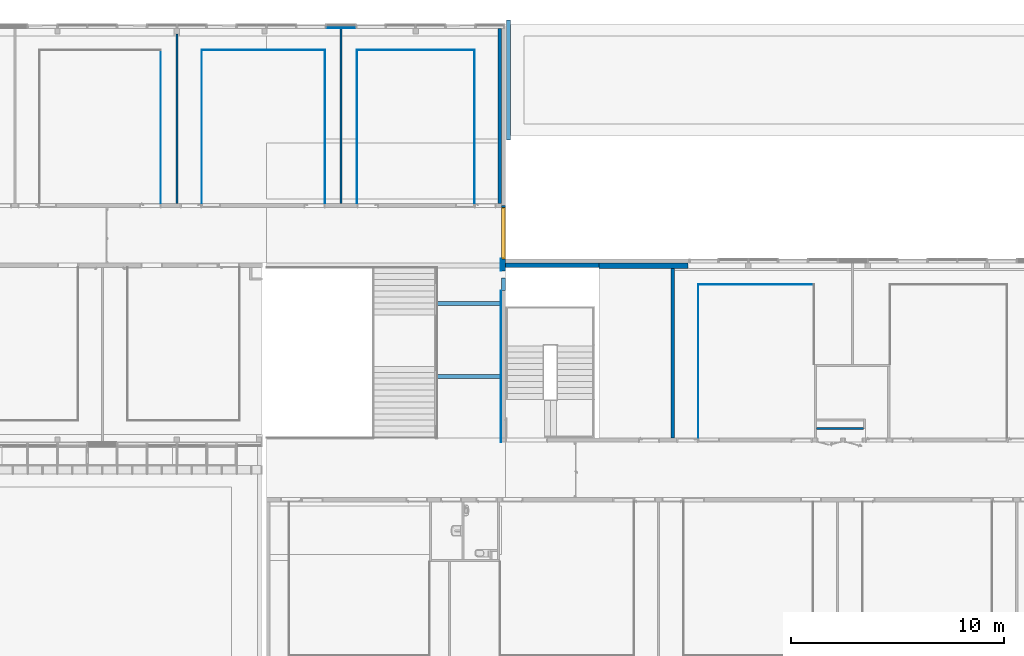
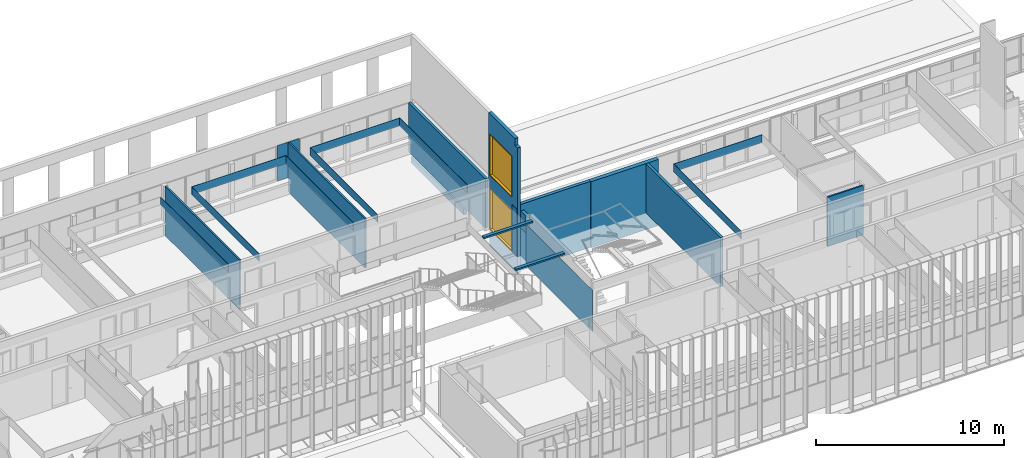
"""IFC2X3 building model written with IfcOpenShell, lengths in centimetres."""

from ifc_helpers import new_model, entity, si_unit, converted_unit, derived_unit, direction, frame, frame_2d, origin, place, context, subcontext, project, spatial, polyline, rectangle, extrude, clip, bounded_halfspace, faceted_brep, source, transform, mapped, material, material_list, layer, layer_set, layer_usage, type_object, type_shapes, element, fill, save


model = new_model("IFC2X3")

# Units and contexts
model_context = context("Model", 3, precision=0.001, world=origin(), true_north=direction((6.12303176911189e-17, 1.0)))
body_context = subcontext(model_context, "Body", "Model", "MODEL_VIEW")
ifc_project = project(units=[si_unit("LENGTHUNIT", "METRE", prefix="CENTI"), si_unit("AREAUNIT", "SQUARE_METRE"), si_unit("VOLUMEUNIT", "CUBIC_METRE"), converted_unit("PLANEANGLEUNIT", "DEGREE", entity("IfcRatioMeasure", 0.0174532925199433), si_unit("PLANEANGLEUNIT", "RADIAN"), dimensions=[0, 0, 0, 0, 0, 0, 0]), si_unit("MASSUNIT", "GRAM", prefix="KILO"), derived_unit("MASSDENSITYUNIT", [(si_unit("MASSUNIT", "GRAM", prefix="KILO"), 1), (si_unit("LENGTHUNIT", "METRE"), -3)]), si_unit("TIMEUNIT", "SECOND"), si_unit("FREQUENCYUNIT", "HERTZ"), si_unit("THERMODYNAMICTEMPERATUREUNIT", "DEGREE_CELSIUS"), derived_unit("THERMALTRANSMITTANCEUNIT", [(si_unit("MASSUNIT", "GRAM", prefix="KILO"), 1), (si_unit("THERMODYNAMICTEMPERATUREUNIT", "KELVIN"), -1), (si_unit("TIMEUNIT", "SECOND"), -3)]), derived_unit("VOLUMETRICFLOWRATEUNIT", [(si_unit("LENGTHUNIT", "METRE"), 3), (si_unit("TIMEUNIT", "SECOND"), -1)]), si_unit("ELECTRICCURRENTUNIT", "AMPERE"), si_unit("ELECTRICVOLTAGEUNIT", "VOLT"), si_unit("POWERUNIT", "WATT"), si_unit("FORCEUNIT", "NEWTON", prefix="KILO"), si_unit("ILLUMINANCEUNIT", "LUX"), si_unit("LUMINOUSFLUXUNIT", "LUMEN"), si_unit("LUMINOUSINTENSITYUNIT", "CANDELA"), derived_unit("USERDEFINED", [(si_unit("MASSUNIT", "GRAM", prefix="KILO"), -1), (si_unit("LENGTHUNIT", "METRE"), -2), (si_unit("TIMEUNIT", "SECOND"), 3), (si_unit("LUMINOUSFLUXUNIT", "LUMEN"), 1)]), derived_unit("LINEARVELOCITYUNIT", [(si_unit("LENGTHUNIT", "METRE"), 1), (si_unit("TIMEUNIT", "SECOND"), -1)]), si_unit("PRESSUREUNIT", "PASCAL"), derived_unit("USERDEFINED", [(si_unit("LENGTHUNIT", "METRE"), -2), (si_unit("MASSUNIT", "GRAM", prefix="KILO"), 1), (si_unit("TIMEUNIT", "SECOND"), -2)])], contexts=[model_context])

# Site, building, storey
site_placement = place(None, frame((-2781.94577612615, 7442.24238424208, 0.0)))
site = spatial("IfcSite", under=ifc_project, at=site_placement, Name="Default", CompositionType="ELEMENT")
building_placement = place(site_placement, origin())
building = spatial("IfcBuilding", under=site, at=building_placement, CompositionType="ELEMENT")
storey_1_placement = place(building_placement, frame((0.0, 0.0, 422.0)))
storey_1 = spatial("IfcBuildingStorey", under=building, at=storey_1_placement, Name="Toiture - Cuisine", CompositionType="ELEMENT", Elevation=421.999999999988)

# Walls
ifc_material_1 = material(Name="01 - Maçonnerie")
ifc_layer_1 = layer(ifc_material_1, 25.0)
ifc_layer_set_1 = layer_set([ifc_layer_1], Name="Mur de base:04 - Structure - béton - 25cm")
ifc_layer_usage_1 = layer_usage(ifc_layer_set_1, "AXIS2", "NEGATIVE", 12.5)
wall_type_1 = type_object("IfcWallType", Name="Mur de base:04 - Structure - béton - 25cm", PredefinedType="STANDARD", material=ifc_layer_set_1)
wall_1_placement = place(building_placement, frame((-2788.29988284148, -1102.49999990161, 313.0), z_axis=(0.0, 0.0, 1.0), x_axis=(-1.0, 0.0, 0.0)))
element("IfcWallStandardCase", 1, at=wall_1_placement, inside=storey_1, type_object=wall_type_1, material=ifc_layer_usage_1, Name="Mur de base:04 - Structure - béton - 25cm", ObjectType="Mur de base:04 - Structure - béton - 25cm", context=body_context, shape_type="Clipping", body=[
    clip(extrude(rectangle(XDim=416.000000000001, YDim=25.0, at=frame_2d((213.0, 3.5527136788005e-14), x_axis=(-1.0, 0.0))), origin(), (0.0, 0.0, 1.0), 430.0), bounded_halfspace(frame((421.0, 7.49999999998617, 430.0), z_axis=(0.0, 0.0, -1.0), x_axis=(0.0, -1.0, 0.0)), True, frame((421.0, 7.49999999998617, 430.0)), polyline([(0.0, 0.0), (0.0, 5.0), (-338.0, 5.0), (-354.0, 5.0), (-421.0, 5.0), (-421.0, 0.0), (0.0, 0.0)]))),
])
ifc_material_2 = material(Name="00 - Isolant")
ifc_layer_2 = layer(ifc_material_2, 14.0)
ifc_material_3 = material(Name="01 - Enduit/Plâtre")
ifc_layer_3 = layer(ifc_material_3, 1.3)
ifc_layer_set_2 = layer_set([ifc_layer_2, ifc_layer_3], Name="Mur de base:04 - Parement -  isolant 14 cm + BA13")
ifc_layer_usage_2 = layer_usage(ifc_layer_set_2, "AXIS2", "NEGATIVE", 7.65)
wall_type_2 = type_object("IfcWallType", Name="Mur de base:04 - Parement -  isolant 14 cm + BA13", PredefinedType="STANDARD", material=ifc_layer_set_2)
wall_2_placement = place(building_placement, frame((-3675.64987968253, 10.0, 422.0), z_axis=(0.0, 0.0, 1.0), x_axis=(0.0, -1.0, 0.0)))
element("IfcWallStandardCase", 2, at=wall_2_placement, inside=storey_1, type_object=wall_type_2, material=ifc_layer_usage_2, Name="Mur de base:04 - Parement -  isolant 14 cm + BA13", ObjectType="Mur de base:04 - Parement -  isolant 14 cm + BA13", context=body_context, shape_type="SweptSolid", body=[
    extrude(rectangle(XDim=820.048500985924, YDim=15.3, at=frame_2d((410.024250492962, -2.66453525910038e-15), x_axis=(-1.0, 0.0))), origin(), (0.0, 0.0, 1.0), 321.0),
])

# Wall, openings, window
ifc_layer_4 = layer(ifc_material_1, 20.0)
ifc_layer_set_3 = layer_set([ifc_layer_4], Name="Mur de base:04 - Structure - béton - 20cm")
ifc_layer_usage_3 = layer_usage(ifc_layer_set_3, "AXIS2", "NEGATIVE", 10.0)
wall_type_3 = type_object("IfcWallType", Name="Mur de base:04 - Structure - béton - 20cm", PredefinedType="STANDARD", material=ifc_layer_set_3)
wall_3_placement = place(building_placement, frame((-3657.99987968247, -1126.0067703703, 313.0), z_axis=(0.0, 0.0, 1.0), x_axis=(0.0, 1.0, 0.0)))
wall_3 = element("IfcWallStandardCase", 3, at=wall_3_placement, inside=storey_1, type_object=wall_type_3, material=ifc_layer_usage_3, Name="Mur de base:04 - Structure - béton - 20cm", ObjectType="Mur de base:04 - Structure - béton - 20cm", context=body_context, shape_type="Clipping", body=[
    clip(extrude(rectangle(XDim=305.958269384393, YDim=19.9999999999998, at=frame_2d((152.979134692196, 0.0), x_axis=(-1.0, 0.0))), origin(), (0.0, 0.0, 1.0), 863.000000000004), bounded_halfspace(frame((295.958269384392, -10.0, 109.0), z_axis=(-1.0, 0.0, 0.0), x_axis=(0.0, -1.0, 0.0)), True, frame((295.958269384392, -10.0, 109.0), z_axis=(-1.0, 0.0, 0.0), x_axis=(0.0, -1.0, 0.0)), polyline([(0.0, 0.0), (-20.0, 0.0), (-20.0, -109.0), (0.0, -109.0), (0.0, 0.0)]))),
])
opening_1_placement = place(wall_3_placement, origin())
element("IfcOpeningElement", 4, at=opening_1_placement, cuts=wall_3, Name="Mur de base:04 - Structure - béton - 20cm:4570", ObjectType="Opening", context=body_context, shape_type="SweptSolid", body=[
    extrude(rectangle(XDim=45.9999999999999, YDim=26.0067704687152, at=frame_2d((-1.08357767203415e-13, 0.0), x_axis=(0.0, 1.0))), frame((13.0033852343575, 10.0, 840.0), z_axis=(0.0, -1.0, 0.0), x_axis=(-1.0, 0.0, 0.0)), (0.0, 0.0, 1.0), 20.0),
])
opening_2_placement = place(wall_3_placement, frame((56.0067704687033, -10.0, 109.0)))
opening_2 = element("IfcOpeningElement", 5, at=opening_2_placement, cuts=wall_3, Name="châssis intérieur vitré:R+1 - Pignon -  châssis intérieur vitré (2,70m):1", ObjectType="Opening", context=body_context, shape_type="SweptSolid", body=[
    extrude(rectangle(XDim=270.0, YDim=239.951498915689, at=frame_2d((135.0, 119.975749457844), x_axis=(1.0, 0.0))), frame((0.0, 0.0, 0.0), z_axis=(0.0, 1.0, 0.0), x_axis=(0.0, 0.0, 1.0)), (0.0, 0.0, 1.0), 20.0),
])
opening_3_placement = place(wall_3_placement, frame((56.0067704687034, -10.0, 461.0)))
opening_3 = element("IfcOpeningElement", 6, at=opening_3_placement, cuts=wall_3, Name="châssis intérieur vitré:R+1 - Pignon -  châssis intérieur vitré (2,70m):1", ObjectType="Opening", context=body_context, shape_type="SweptSolid", body=[
    extrude(rectangle(XDim=270.0, YDim=239.951498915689, at=frame_2d((135.0, 119.975749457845), x_axis=(1.0, 0.0))), frame((0.0, 0.0, 0.0), z_axis=(0.0, 1.0, 0.0), x_axis=(0.0, 0.0, 1.0)), (0.0, 0.0, 1.0), 20.0),
])
ifc_material_4 = material(Name="Verre")
ifc_material_5 = material(Name="huisserie bois")
ifc_material_list_1 = material_list([ifc_material_4, ifc_material_5])
ifc_material_list_2 = material_list([ifc_material_4, ifc_material_5])
window_style = type_object("IfcWindowStyle", Name="R+1 - Pignon -  châssis intérieur vitré (2,70m)", ConstructionType="NOTDEFINED", OperationType="NOTDEFINED", ParameterTakesPrecedence=False, Sizeable=False, material=ifc_material_list_2)
shared_shape = source(origin(), body_context, "Body", "Brep", [
    faceted_brep([(236.951498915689, 5.0, 267.0), (236.951498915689, 5.0, 3.0), (3.0, 5.0, 3.0), (3.0, 5.0, 267.0), (236.951498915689, 2.0, 267.0), (236.951498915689, 2.0, 3.0), (3.0, 2.0, 3.0), (3.0, 2.0, 267.0)], [[[0, 1, 2, 3]], [[1, 0, 4, 5]], [[2, 1, 5, 6]], [[3, 2, 6, 7]], [[4, 7, 6, 5]], [[0, 3, 7, 4]]]),
    faceted_brep([(236.951498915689, 2.0, 267.0), (236.951498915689, 0.0, 267.0), (236.951498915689, 0.0, 3.0), (236.951498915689, 2.0, 3.0), (234.951498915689, 0.0, 5.0), (5.0, 0.0, 5.0), (5.0, 0.0, 265.0), (234.951498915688, 0.0, 265.0), (3.0, 0.0, 267.0), (3.0, 0.0, 3.0), (3.0, 2.0, 3.0), (3.0, 2.0, 267.0), (234.951498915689, 2.0, 265.0), (5.0, 2.0, 265.0), (5.0, 2.0, 5.0), (234.951498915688, 2.0, 5.0)], [[[0, 1, 2, 3]], [[4, 5, 6, 7], [1, 8, 9, 2]], [[3, 2, 9, 10]], [[3, 10, 11, 0], [12, 13, 14, 15]], [[7, 12, 15, 4]], [[4, 15, 14, 5]], [[10, 9, 8, 11]], [[5, 14, 13, 6]], [[11, 8, 1, 0]], [[6, 13, 12, 7]]], outer=[[True], [False, True], [True], [True, False], [True], [True], [True], [True], [True], [True]]),
    faceted_brep([(234.951498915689, 5.0, 265.0), (234.951498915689, 20.0, 265.0), (234.951498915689, 20.0, 5.0), (234.951498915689, 5.0, 5.0), (239.951498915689, 20.0, 0.0), (0.0, 20.0, 0.0), (0.0, 20.0, 270.0), (239.951498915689, 20.0, 270.0), (5.0, 20.0, 265.0), (5.0, 20.0, 5.0), (5.0, 5.0, 5.0), (5.0, 5.0, 265.0), (236.951498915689, 5.0, 267.0), (3.0, 5.0, 267.0), (3.0, 5.0, 3.0), (236.951498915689, 5.0, 3.0), (236.951498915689, 0.0, 267.0), (236.951498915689, 0.0, 3.0), (3.0, 0.0, 3.0), (3.0, 0.0, 267.0), (239.951498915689, 0.0, 270.0), (0.0, 0.0, 270.0), (0.0, 0.0, 0.0), (239.951498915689, 0.0, 0.0)], [[[0, 1, 2, 3]], [[4, 5, 6, 7], [1, 8, 9, 2]], [[3, 2, 9, 10]], [[3, 10, 11, 0], [12, 13, 14, 15]], [[16, 12, 15, 17]], [[17, 15, 14, 18]], [[17, 18, 19, 16], [20, 21, 22, 23]], [[7, 20, 23, 4]], [[4, 23, 22, 5]], [[10, 9, 8, 11]], [[18, 14, 13, 19]], [[5, 22, 21, 6]], [[11, 8, 1, 0]], [[19, 13, 12, 16]], [[6, 21, 20, 7]]], outer=[[True], [True, False], [True], [False, True], [True], [True], [False, True], [True], [True], [True], [True], [True], [True], [True], [True]]),
])
type_shapes(window_style, [shared_shape])
window_1_placement = place(opening_2_placement, frame((-9.84036887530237e-08, 0.0, 0.0)))
window_1 = element("IfcWindow", 7, at=window_1_placement, inside=storey_1, type_object=window_style, material=ifc_material_list_1, Name="châssis intérieur vitré:R+1 - Pignon -  châssis intérieur vitré (2,70m)", ObjectType="châssis intérieur vitré:R+1 - Pignon -  châssis intérieur vitré (2,70m)", OverallHeight=270.0, OverallWidth=239.951498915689, context=body_context, shape_type="MappedRepresentation", body=[
    mapped(shared_shape, transform((0.0, 0.0, 0.0), scale=1.0)),
])
fill(opening_2, window_1)

# Storey
storey_2_placement = place(building_placement, frame((0.0, 0.0, 774.0)))
storey_2 = spatial("IfcBuildingStorey", under=building, at=storey_2_placement, Name="TR - N02 - ARCH", CompositionType="ELEMENT", Elevation=774.0)

# Window
ifc_material_list_3 = material_list([ifc_material_4, ifc_material_5])
window_2_placement = place(opening_3_placement, frame((-9.84039161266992e-08, 0.0, 0.0)))
window_2 = element("IfcWindow", 8, at=window_2_placement, inside=storey_2, type_object=window_style, material=ifc_material_list_3, Name="châssis intérieur vitré:R+1 - Pignon -  châssis intérieur vitré (2,70m)", ObjectType="châssis intérieur vitré:R+1 - Pignon -  châssis intérieur vitré (2,70m)", OverallHeight=270.0, OverallWidth=239.951498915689, context=body_context, shape_type="MappedRepresentation", body=[
    mapped(shared_shape, transform((0.0, 0.0, 0.0), scale=1.0)),
])

fill(opening_3, window_2)

# Walls
ifc_layer_usage_4 = layer_usage(ifc_layer_set_3, "AXIS2", "NEGATIVE", 10.0)
wall_4_placement = place(building_placement, frame((-3657.99987968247, -1219.1067703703, 632.0), z_axis=(0.0, 0.0, 1.0), x_axis=(0.0, 1.0, 0.0)))
element("IfcWallStandardCase", 9, at=wall_4_placement, inside=storey_1, type_object=wall_type_3, material=ifc_layer_usage_4, Name="Mur de base:04 - Structure - béton - 20cm", ObjectType="Mur de base:04 - Structure - béton - 20cm", context=body_context, shape_type="SweptSolid", body=[
    extrude(rectangle(XDim=58.1345071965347, YDim=19.9999999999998, at=frame_2d((29.0672535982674, 0.0), x_axis=(-1.0, 0.0))), origin(), (0.0, 0.0, 1.0), 111.0),
])
ifc_layer_usage_5 = layer_usage(ifc_layer_set_3, "AXIS2", "NEGATIVE", 10.0)
wall_5_placement = place(building_placement, frame((-3209.29988284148, -1100.0, 313.0), z_axis=(0.0, 0.0, 1.0), x_axis=(-1.0, 0.0, 0.0)))
element("IfcWallStandardCase", 10, at=wall_5_placement, inside=storey_1, type_object=wall_type_3, material=ifc_layer_usage_5, Name="Mur de base:04 - Structure - béton - 20cm", ObjectType="Mur de base:04 - Structure - béton - 20cm", context=body_context, shape_type="SweptSolid", body=[
    extrude(rectangle(XDim=438.699996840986, YDim=20.0000000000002, at=frame_2d((219.349998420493, -5.24025267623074e-14), x_axis=(-1.0, 0.0))), origin(), (0.0, 0.0, 1.0), 430.0),
])
ifc_layer_usage_6 = layer_usage(ifc_layer_set_3, "AXIS2", "NEGATIVE", 10.0)
wall_6_placement = place(building_placement, frame((-3633.99987968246, -512.548500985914, 313.0), z_axis=(0.0, 0.0, 1.0), x_axis=(0.0, 1.0, 0.0)))
element("IfcWallStandardCase", 11, at=wall_6_placement, inside=storey_1, type_object=wall_type_3, material=ifc_layer_usage_6, Name="Mur de base:04 - Structure - béton - 20cm", ObjectType="Mur de base:04 - Structure - béton - 20cm", context=body_context, shape_type="SweptSolid", body=[
    extrude(rectangle(XDim=562.548500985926, YDim=19.9999999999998, at=frame_2d((281.274250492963, 2.48689957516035e-14), x_axis=(-1.0, 0.0))), origin(), (0.0, 0.0, 1.0), 40.0000000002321),
])
ifc_layer_5 = layer(ifc_material_3, 1.3)
ifc_layer_6 = layer(ifc_material_2, 7.4)
ifc_layer_7 = layer(ifc_material_3, 1.3)
ifc_layer_set_4 = layer_set([ifc_layer_5, ifc_layer_6, ifc_layer_7], Name="Mur de base:06 - cloisons - Ba13 10cm")
ifc_layer_usage_7 = layer_usage(ifc_layer_set_4, "AXIS2", "NEGATIVE", 5.0)
wall_type_4 = type_object("IfcWallType", Name="Mur de base:06 - cloisons - Ba13 10cm", PredefinedType="STANDARD", material=ifc_layer_set_4)
wall_7_placement = place(building_placement, frame((-4418.79987968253, 10.0, 422.0), z_axis=(0.0, 0.0, 1.0), x_axis=(0.0, -1.0, 0.0)))
element("IfcWallStandardCase", 12, at=wall_7_placement, inside=storey_1, type_object=wall_type_4, material=ifc_layer_usage_7, Name="Mur de base:06 - cloisons - Ba13 10cm", ObjectType="Mur de base:06 - cloisons - Ba13 10cm", context=body_context, shape_type="Clipping", body=[
    clip(extrude(rectangle(XDim=820.048500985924, YDim=9.99999999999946, at=frame_2d((410.024250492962, -1.02140518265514e-14), x_axis=(-1.0, 0.0))), origin(), (0.0, 0.0, 1.0), 321.0), bounded_halfspace(frame((20.0, -5.0, 321.0), z_axis=(0.0, 0.0, -1.0), x_axis=(-1.0, 0.0, 0.0)), True, frame((20.0, -5.0, 321.0)), polyline([(0.0, 0.0), (800.048500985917, 0.0), (800.048500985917, 10.0), (0.0, 10.0), (0.0, 0.0)]))),
])
ifc_layer_usage_8 = layer_usage(ifc_layer_set_4, "AXIS2", "NEGATIVE", 5.0)
wall_8_placement = place(building_placement, frame((-5189.49987760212, -15.0, 422.0), z_axis=(0.0, 0.0, 1.0), x_axis=(0.0, -1.0, 0.0)))
element("IfcWallStandardCase", 13, at=wall_8_placement, inside=storey_1, type_object=wall_type_4, material=ifc_layer_usage_8, Name="Mur de base:06 - cloisons - Ba13 10cm", ObjectType="Mur de base:06 - cloisons - Ba13 10cm", context=body_context, shape_type="Clipping", body=[
    clip(extrude(rectangle(XDim=795.048500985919, YDim=9.99999999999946, at=frame_2d((397.52425049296, -3.59712259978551e-14), x_axis=(-1.0, 0.0))), origin(), (0.0, 0.0, 1.0), 321.0), bounded_halfspace(frame((0.0, -5.0, 321.0), z_axis=(0.0, 0.0, -1.0), x_axis=(-1.0, 0.0, 0.0)), True, frame((0.0, -5.0, 321.0)), polyline([(0.0, 0.0), (795.048500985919, 0.0), (795.048500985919, 10.0), (0.0, 10.0), (0.0, 0.0)]))),
])
ifc_layer_usage_9 = layer_usage(ifc_layer_set_4, "AXIS2", "NEGATIVE", 5.0)
wall_9_placement = place(building_placement, frame((-1969.49988284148, -1865.24940451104, 422.0), z_axis=(0.0, 0.0, 1.0), x_axis=(-1.0, 0.0, 0.0)))
element("IfcWallStandardCase", 14, at=wall_9_placement, inside=storey_1, type_object=wall_type_4, material=ifc_layer_usage_9, Name="Mur de base:06 - cloisons - Ba13 10cm", ObjectType="Mur de base:06 - cloisons - Ba13 10cm", context=body_context, shape_type="Clipping", body=[
    clip(extrude(rectangle(XDim=220.0, YDim=9.99999999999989, at=frame_2d((110.0, -7.105427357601e-15), x_axis=(-1.0, 0.0))), origin(), (0.0, 0.0, 1.0), 321.0), bounded_halfspace(frame((0.0, -5.0, 321.0), z_axis=(0.0, 0.0, -1.0), x_axis=(0.0, -1.0, 0.0)), True, frame((0.0, -5.0, 321.0)), polyline([(0.0, 0.0), (220.0, 0.0), (220.0, 10.0), (100.0, 10.0), (90.0, 10.0), (0.0, 10.0), (0.0, 9.82962913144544), (0.0, 4.82962913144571), (0.0, 0.0)]))),
])
ifc_layer_8 = layer(ifc_material_3, 1.3)
ifc_material_6 = material(Name="00 - VIDE D'AIR")
ifc_layer_9 = layer(ifc_material_6, 0.7)
ifc_layer_set_5 = layer_set([ifc_layer_8, ifc_layer_9], Name="Mur de base:06 - habillage Ba13 collée 2cm")
ifc_layer_usage_10 = layer_usage(ifc_layer_set_5, "AXIS2", "POSITIVE", -1.0)
wall_type_5 = type_object("IfcWallType", Name="Mur de base:06 - habillage Ba13 collée 2cm", PredefinedType="STANDARD", material=ifc_layer_set_5)
wall_10_placement = place(building_placement, frame((-4493.79987968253, -91.0, 692.0), z_axis=(0.0, 0.0, 1.0), x_axis=(-1.0, 0.0, 0.0)))
element("IfcWallStandardCase", 15, at=wall_10_placement, inside=storey_1, type_object=wall_type_5, material=ifc_layer_usage_10, Name="Mur de base:06 - habillage Ba13 collée 2cm", ObjectType="Mur de base:06 - habillage Ba13 collée 2cm", context=body_context, shape_type="Clipping", body=[
    clip(extrude(rectangle(XDim=580.000000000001, YDim=2.00000000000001, at=frame_2d((290.0, 3.10862446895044e-15), x_axis=(-1.0, 0.0))), origin(), (0.0, 0.0, 1.0), 50.9999999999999), bounded_halfspace(frame((0.0, -1.0, 51.0), z_axis=(0.0, 0.0, -1.0), x_axis=(0.0, -1.0, 0.0)), True, frame((0.0, -1.0, 51.0)), polyline([(0.0, 0.0), (580.0, 0.0), (580.0, 2.0), (578.0, 2.0), (2.0, 2.0), (0.0, 2.0), (0.0, 0.0)]))),
])
ifc_layer_usage_11 = layer_usage(ifc_layer_set_5, "AXIS2", "POSITIVE", -1.0)
wall_11_placement = place(building_placement, frame((-3793.29987968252, -91.0, 692.0), z_axis=(0.0, 0.0, 1.0), x_axis=(-1.0, 0.0, 0.0)))
element("IfcWallStandardCase", 16, at=wall_11_placement, inside=storey_1, type_object=wall_type_5, material=ifc_layer_usage_11, Name="Mur de base:06 - habillage Ba13 collée 2cm", ObjectType="Mur de base:06 - habillage Ba13 collée 2cm", context=body_context, shape_type="Clipping", body=[
    clip(extrude(rectangle(XDim=552.500000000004, YDim=2.00000000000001, at=frame_2d((276.250000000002, 6.10622663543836e-15), x_axis=(-1.0, 0.0))), origin(), (0.0, 0.0, 1.0), 50.9999999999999), bounded_halfspace(frame((0.0, -1.0, 51.0), z_axis=(0.0, 0.0, -1.0), x_axis=(0.0, -1.0, 0.0)), True, frame((0.0, -1.0, 51.0)), polyline([(0.0, 0.0), (552.500000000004, 0.0), (552.500000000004, 2.0), (550.500000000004, 2.0), (2.0, 2.0), (0.0, 2.0), (0.0, 0.0)]))),
])
ifc_layer_usage_12 = layer_usage(ifc_layer_set_5, "AXIS2", "POSITIVE", -1.0)
wall_12_placement = place(building_placement, frame((-3794.29987968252, -810.048500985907, 692.0), z_axis=(0.0, 0.0, 1.0), x_axis=(0.0, 1.0, 0.0)))
element("IfcWallStandardCase", 17, at=wall_12_placement, inside=storey_1, type_object=wall_type_5, material=ifc_layer_usage_12, Name="Mur de base:06 - habillage Ba13 collée 2cm", ObjectType="Mur de base:06 - habillage Ba13 collée 2cm", context=body_context, shape_type="Clipping", body=[
    clip(extrude(rectangle(XDim=718.048500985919, YDim=2.00000000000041, at=frame_2d((359.02425049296, -8.88178419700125e-15), x_axis=(-1.0, 0.0))), origin(), (0.0, 0.0, 1.0), 50.9999999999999), bounded_halfspace(frame((0.0, -1.0, 51.0), z_axis=(0.0, 0.0, -1.0), x_axis=(1.0, 0.0, 0.0)), True, frame((0.0, -1.0, 51.0)), polyline([(0.0, 0.0), (718.048500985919, 0.0), (718.048500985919, 2.0), (0.0, 2.0), (0.0, 0.0)]))),
])
ifc_layer_usage_13 = layer_usage(ifc_layer_set_5, "AXIS2", "POSITIVE", -1.0)
wall_13_placement = place(building_placement, frame((-4344.79987968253, -92.0, 692.0), z_axis=(0.0, 0.0, 1.0), x_axis=(0.0, -1.0, 0.0)))
element("IfcWallStandardCase", 18, at=wall_13_placement, inside=storey_1, type_object=wall_type_5, material=ifc_layer_usage_13, Name="Mur de base:06 - habillage Ba13 collée 2cm", ObjectType="Mur de base:06 - habillage Ba13 collée 2cm", context=body_context, shape_type="Clipping", body=[
    clip(extrude(rectangle(XDim=718.048500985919, YDim=1.99999999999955, at=frame_2d((359.02425049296, -5.93969318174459e-15), x_axis=(-1.0, 0.0))), origin(), (0.0, 0.0, 1.0), 50.9999999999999), bounded_halfspace(frame((0.0, -1.0, 51.0), z_axis=(0.0, 0.0, -1.0), x_axis=(-1.0, 0.0, 0.0)), True, frame((0.0, -1.0, 51.0)), polyline([(0.0, 0.0), (718.048500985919, 0.0), (718.048500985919, 2.0), (0.0, 2.0), (0.0, 0.0)]))),
])
ifc_layer_usage_14 = layer_usage(ifc_layer_set_5, "AXIS2", "POSITIVE", -1.0)
wall_14_placement = place(building_placement, frame((-4494.79987968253, -810.048500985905, 692.0), z_axis=(0.0, 0.0, 1.0), x_axis=(0.0, 1.0, 0.0)))
element("IfcWallStandardCase", 19, at=wall_14_placement, inside=storey_1, type_object=wall_type_5, material=ifc_layer_usage_14, Name="Mur de base:06 - habillage Ba13 collée 2cm", ObjectType="Mur de base:06 - habillage Ba13 collée 2cm", context=body_context, shape_type="Clipping", body=[
    clip(extrude(rectangle(XDim=718.048500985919, YDim=1.99999999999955, at=frame_2d((359.02425049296, 2.07722727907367e-13), x_axis=(-1.0, 0.0))), origin(), (0.0, 0.0, 1.0), 50.9999999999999), bounded_halfspace(frame((0.0, -1.0, 51.0), z_axis=(0.0, 0.0, -1.0), x_axis=(1.0, 0.0, 0.0)), True, frame((0.0, -1.0, 51.0)), polyline([(0.0, 0.0), (718.048500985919, 0.0), (718.048500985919, 2.0), (0.0, 2.0), (0.0, 0.0)]))),
])
ifc_layer_usage_15 = layer_usage(ifc_layer_set_5, "AXIS2", "POSITIVE", -1.0)
wall_15_placement = place(building_placement, frame((-5072.79987968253, -92.0, 692.0), z_axis=(0.0, 0.0, 1.0), x_axis=(0.0, -1.0, 0.0)))
element("IfcWallStandardCase", 20, at=wall_15_placement, inside=storey_1, type_object=wall_type_5, material=ifc_layer_usage_15, Name="Mur de base:06 - habillage Ba13 collée 2cm", ObjectType="Mur de base:06 - habillage Ba13 collée 2cm", context=body_context, shape_type="Clipping", body=[
    clip(extrude(rectangle(XDim=718.048500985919, YDim=1.99999999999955, at=frame_2d((359.02425049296, -5.93969318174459e-15), x_axis=(-1.0, 0.0))), origin(), (0.0, 0.0, 1.0), 50.9999999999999), bounded_halfspace(frame((0.0, -1.0, 51.0), z_axis=(0.0, 0.0, -1.0), x_axis=(-1.0, 0.0, 0.0)), True, frame((0.0, -1.0, 51.0)), polyline([(0.0, 0.0), (718.048500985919, 0.0), (718.048500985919, 2.0), (0.0, 2.0), (0.0, 0.0)]))),
])
ifc_layer_usage_16 = layer_usage(ifc_layer_set_5, "AXIS2", "POSITIVE", -1.0)
wall_16_placement = place(building_placement, frame((-5264.78697672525, -810.048500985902, 692.0), z_axis=(0.0, 0.0, 1.0), x_axis=(0.0, 1.0, 0.0)))
element("IfcWallStandardCase", 21, at=wall_16_placement, inside=storey_1, type_object=wall_type_5, material=ifc_layer_usage_16, Name="Mur de base:06 - habillage Ba13 collée 2cm", ObjectType="Mur de base:06 - habillage Ba13 collée 2cm", context=body_context, shape_type="Clipping", body=[
    clip(extrude(rectangle(XDim=718.048500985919, YDim=1.99999999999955, at=frame_2d((359.02425049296, 2.07722727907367e-13), x_axis=(-1.0, 0.0))), origin(), (0.0, 0.0, 1.0), 50.9999999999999), bounded_halfspace(frame((0.0, -1.0, 51.0), z_axis=(0.0, 0.0, -1.0), x_axis=(1.0, 0.0, 0.0)), True, frame((0.0, -1.0, 51.0)), polyline([(0.0, 0.0), (718.048500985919, 0.0), (718.048500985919, 2.0), (0.0, 2.0), (0.0, 0.0)]))),
])
ifc_layer_usage_17 = layer_usage(ifc_layer_set_5, "AXIS2", "NEGATIVE", 1.0)
wall_17_placement = place(building_placement, frame((-2745.29988284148, -1191.0, 692.0)))
element("IfcWallStandardCase", 22, at=wall_17_placement, inside=storey_1, type_object=wall_type_5, material=ifc_layer_usage_17, Name="Mur de base:06 - habillage Ba13 collée 2cm", ObjectType="Mur de base:06 - habillage Ba13 collée 2cm", context=body_context, shape_type="Clipping", body=[
    clip(extrude(rectangle(XDim=543.8, YDim=1.99999999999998, at=frame_2d((271.9, 9.26481114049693e-14), x_axis=(-1.0, 0.0))), origin(), (0.0, 0.0, 1.0), 50.9999999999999), bounded_halfspace(frame((0.0, -1.0, 51.0), z_axis=(0.0, 0.0, -1.0), x_axis=(0.0, 1.0, 0.0)), True, frame((0.0, -1.0, 51.0)), polyline([(0.0, 0.0), (2.0, 0.0), (543.8, 0.0), (543.8, 2.0), (0.0, 2.0), (0.0, 0.0)]))),
])
ifc_layer_usage_18 = layer_usage(ifc_layer_set_5, "AXIS2", "NEGATIVE", 1.0)
wall_18_placement = place(building_placement, frame((-2744.29988284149, -1910.07903364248, 692.0), z_axis=(0.0, 0.0, 1.0), x_axis=(0.0, 1.0, 0.0)))
element("IfcWallStandardCase", 23, at=wall_18_placement, inside=storey_1, type_object=wall_type_5, material=ifc_layer_usage_18, Name="Mur de base:06 - habillage Ba13 collée 2cm", ObjectType="Mur de base:06 - habillage Ba13 collée 2cm", context=body_context, shape_type="Clipping", body=[
    clip(extrude(rectangle(XDim=718.079033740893, YDim=2.00000000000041, at=frame_2d((359.039516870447, -3.47499806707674e-14), x_axis=(-1.0, 0.0))), origin(), (0.0, 0.0, 1.0), 50.9999999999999), bounded_halfspace(frame((0.0, -1.0, 51.0), z_axis=(0.0, 0.0, -1.0), x_axis=(1.0, 0.0, 0.0)), True, frame((0.0, -1.0, 51.0)), polyline([(0.0, 0.0), (718.079033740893, 0.0), (718.079033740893, 2.0), (0.0, 2.0), (0.0, 0.0)]))),
])
ifc_material_7 = material(Name="Pin")
ifc_layer_10 = layer(ifc_material_7, 2.0)
ifc_layer_set_6 = layer_set([ifc_layer_10], Name="Mur de base:06 - habillage bois collée 2cm")
ifc_layer_usage_19 = layer_usage(ifc_layer_set_6, "AXIS2", "NEGATIVE", 1.0)
wall_type_6 = type_object("IfcWallType", Name="Mur de base:06 - habillage bois collée 2cm", PredefinedType="STANDARD", material=ifc_layer_set_6)
wall_19_placement = place(building_placement, frame((-3668.99987968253, -1930.07903364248, 422.0), z_axis=(0.0, 0.0, 1.0), x_axis=(0.0, 1.0, 0.0)))
element("IfcWallStandardCase", 24, at=wall_19_placement, inside=storey_1, type_object=wall_type_6, material=ifc_layer_usage_19, Name="Mur de base:06 - habillage bois collée 2cm", ObjectType="Mur de base:06 - habillage bois collée 2cm", context=body_context, shape_type="SweptSolid", body=[
    extrude(rectangle(XDim=710.97226327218, YDim=2.00000000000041, at=frame_2d((355.48613163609, 7.29416527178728e-14), x_axis=(-1.0, 0.0))), origin(), (0.0, 0.0, 1.0), 270.0),
])
ifc_layer_usage_20 = layer_usage(ifc_layer_set_6, "AXIS2", "NEGATIVE", 1.0)
wall_20_placement = place(building_placement, frame((-3668.99987968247, -1070.0, 422.0), z_axis=(0.0, 0.0, 1.0), x_axis=(0.0, -1.0, 0.0)))
element("IfcWallStandardCase", 25, at=wall_20_placement, inside=storey_1, type_object=wall_type_6, material=ifc_layer_usage_20, Name="Mur de base:06 - habillage bois collée 2cm", ObjectType="Mur de base:06 - habillage bois collée 2cm", context=body_context, shape_type="SweptSolid", body=[
    extrude(rectangle(XDim=55.9999999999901, YDim=2.00000000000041, at=frame_2d((27.999999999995, 0.0), x_axis=(-1.0, 0.0))), origin(), (0.0, 0.0, 1.0), 306.0),
])
ifc_layer_11 = layer(ifc_material_3, 1.3)
ifc_layer_12 = layer(ifc_material_2, 13.4)
ifc_layer_13 = layer(ifc_material_3, 1.3)
ifc_layer_set_7 = layer_set([ifc_layer_11, ifc_layer_12, ifc_layer_13], Name="Mur de base:06 - cloisons - Ba13 16cm")
ifc_layer_usage_21 = layer_usage(ifc_layer_set_7, "AXIS2", "NEGATIVE", 8.0)
wall_type_7 = type_object("IfcWallType", Name="Mur de base:06 - cloisons - Ba13 16cm", PredefinedType="STANDARD", material=ifc_layer_set_7)
wall_21_placement = place(building_placement, frame((-2863.29988284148, -1115.0, 422.0), z_axis=(0.0, 0.0, 1.0), x_axis=(0.0, -1.0, 0.0)))
element("IfcWallStandardCase", 26, at=wall_21_placement, inside=storey_1, type_object=wall_type_7, material=ifc_layer_usage_21, Name="Mur de base:06 - cloisons - Ba13 16cm", ObjectType="Mur de base:06 - cloisons - Ba13 16cm", context=body_context, shape_type="Clipping", body=[
    clip(extrude(rectangle(XDim=794.999999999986, YDim=15.9999999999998, at=frame_2d((397.499999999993, -5.32907051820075e-15), x_axis=(-1.0, 0.0))), origin(), (0.0, 0.0, 1.0), 321.0), bounded_halfspace(frame((0.0, -8.0, 321.0), z_axis=(0.0, 0.0, -1.0), x_axis=(-1.0, 0.0, 0.0)), True, frame((0.0, -8.0, 321.0)), polyline([(0.0, 0.0), (795.0, 0.0), (795.0, 16.0), (0.0, 16.0), (0.0, 0.0)]))),
])
ifc_layer_14 = layer(ifc_material_1, 20.0)
ifc_layer_set_8 = layer_set([ifc_layer_14], Name="Mur de base:04 - Structure - Poutre béton - (20x25 ht)")
ifc_layer_usage_22 = layer_usage(ifc_layer_set_8, "AXIS2", "NEGATIVE", 10.0)
wall_type_8 = type_object("IfcWallType", Name="Mur de base:04 - Structure - Poutre béton - (20x25 ht)", PredefinedType="STANDARD", material=ifc_layer_set_8)
wall_22_placement = place(building_placement, frame((-3667.99987968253, -1280.07903364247, 743.0), z_axis=(0.0, 0.0, 1.0), x_axis=(-1.0, 0.0, 0.0)))
element("IfcWallStandardCase", 27, at=wall_22_placement, inside=storey_1, type_object=wall_type_8, material=ifc_layer_usage_22, Name="Mur de base:04 - Structure - Poutre béton - (20x25 ht)", ObjectType="Mur de base:04 - Structure - Poutre béton - (20x25 ht)", context=body_context, shape_type="SweptSolid", body=[
    extrude(rectangle(XDim=301.0, YDim=19.9999999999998, at=frame_2d((150.5, -8.88178419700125e-16), x_axis=(-1.0, 0.0))), origin(), (0.0, 0.0, 1.0), 9.99999999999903),
])
ifc_layer_usage_23 = layer_usage(ifc_layer_set_8, "AXIS2", "NEGATIVE", 10.0)
wall_23_placement = place(building_placement, frame((-3667.99987968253, -1621.73022650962, 743.0), z_axis=(0.0, 0.0, 1.0), x_axis=(-1.0, 0.0, 0.0)))
element("IfcWallStandardCase", 28, at=wall_23_placement, inside=storey_1, type_object=wall_type_8, material=ifc_layer_usage_23, Name="Mur de base:04 - Structure - Poutre béton - (20x25 ht)", ObjectType="Mur de base:04 - Structure - Poutre béton - (20x25 ht)", context=body_context, shape_type="SweptSolid", body=[
    extrude(rectangle(XDim=301.0, YDim=19.9999999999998, at=frame_2d((150.5, -8.88178419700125e-16), x_axis=(-1.0, 0.0))), origin(), (0.0, 0.0, 1.0), 9.99999999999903),
])
ifc_material_8 = material(Name="Métal déployé")
ifc_layer_15 = layer(ifc_material_8, 0.3)
ifc_material_9 = material(Name="Métal - Alu brossé")
ifc_layer_16 = layer(ifc_material_9, 1.7)
ifc_layer_set_9 = layer_set([ifc_layer_15, ifc_layer_16], Name="Mur de base:07 -Tôle alu sur CP")
ifc_layer_usage_24 = layer_usage(ifc_layer_set_9, "AXIS2", "NEGATIVE", 1.0)
wall_type_9 = type_object("IfcWallType", Name="Mur de base:07 -Tôle alu sur CP", PredefinedType="STANDARD", material=ifc_layer_set_9)
wall_24_placement = place(building_placement, frame((-4352.75004159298, 11.7000000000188, 512.0), z_axis=(0.0, 0.0, 1.0), x_axis=(-1.0, 0.0, 0.0)))
element("IfcWallStandardCase", 29, at=wall_24_placement, inside=storey_1, type_object=wall_type_9, material=ifc_layer_usage_24, Name="Mur de base:07 -Tôle alu sur CP", ObjectType="Mur de base:07 -Tôle alu sur CP", context=body_context, shape_type="SweptSolid", body=[
    extrude(rectangle(XDim=133.5, YDim=2.0, at=frame_2d((66.75, 0.0), x_axis=(-1.0, 0.0))), origin(), (0.0, 0.0, 1.0), 231.0),
])
ifc_layer_17 = layer(ifc_material_8, 0.3)
ifc_material_10 = material(Name="00 - Isolant polystyrène")
ifc_layer_18 = layer(ifc_material_10, 4.0)
ifc_layer_set_10 = layer_set([ifc_layer_17, ifc_layer_18], Name="Mur de base:07 -Tôle alu Shadowbox")
ifc_layer_usage_25 = layer_usage(ifc_layer_set_10, "AXIS2", "POSITIVE", -2.15)
wall_type_10 = type_object("IfcWallType", Name="Mur de base:07 -Tôle alu Shadowbox", PredefinedType="STANDARD", material=ifc_layer_set_10)
wall_25_placement = place(building_placement, frame((-4352.75004159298, 14.8500000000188, 512.618750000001), z_axis=(0.0, 0.0, 1.0), x_axis=(-1.0, 0.0, 0.0)))
element("IfcWallStandardCase", 30, at=wall_25_placement, inside=storey_1, type_object=wall_type_10, material=ifc_layer_usage_25, Name="Mur de base:07 -Tôle alu Shadowbox", ObjectType="Mur de base:07 -Tôle alu Shadowbox", context=body_context, shape_type="SweptSolid", body=[
    extrude(rectangle(XDim=133.5, YDim=4.3, at=frame_2d((66.75, 8.88178419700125e-16), x_axis=(-1.0, 0.0))), origin(), (0.0, 0.0, 1.0), 230.381249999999),
])

save(model, "model.ifc")
